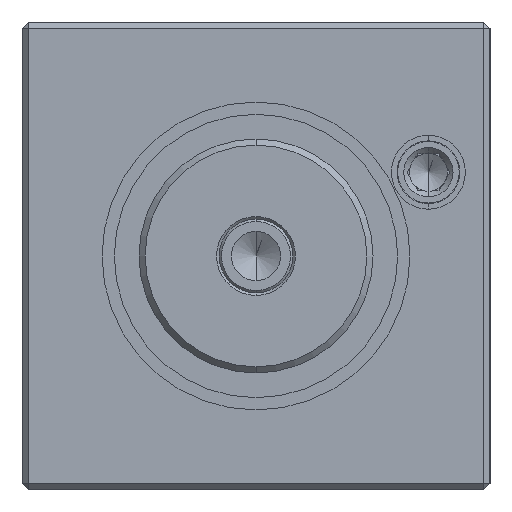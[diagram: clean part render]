
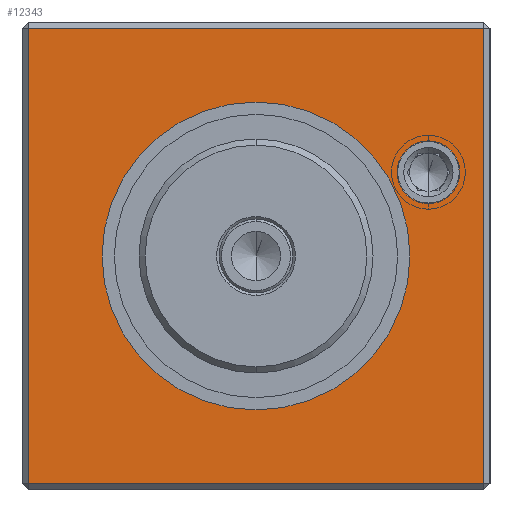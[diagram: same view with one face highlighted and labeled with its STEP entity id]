
A CAD part, left-side view. The second image highlights one B-rep face of the part: STEP entity #12343.
In plain terms, the highlighted planar face has unit normal (-1, 0, 0).
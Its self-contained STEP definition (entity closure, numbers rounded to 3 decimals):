
#9405 = VERTEX_POINT ( 'NONE', #24366 ) ;
#9406 = VERTEX_POINT ( 'NONE', #24367 ) ;
#9647 = EDGE_LOOP ( 'NONE', ( #11001, #11005 ) ) ;
#9648 = EDGE_LOOP ( 'NONE', ( #11002, #11004 ) ) ;
#9649 = EDGE_LOOP ( 'NONE', ( #10995, #10999, #10998, #11000 ) ) ;
#10797 = EDGE_CURVE ( 'NONE', #11420, #11421, #28496, .T. ) ;
#10798 = EDGE_CURVE ( 'NONE', #11419, #11420, #28499, .T. ) ;
#10799 = EDGE_CURVE ( 'NONE', #11421, #11422, #28502, .T. ) ;
#10800 = EDGE_CURVE ( 'NONE', #11422, #11419, #28505, .T. ) ;
#10801 = EDGE_CURVE ( 'NONE', #9406, #9405, #21098, .T. ) ;
#10802 = EDGE_CURVE ( 'NONE', #11342, #11341, #21099, .T. ) ;
#10949 = EDGE_CURVE ( 'NONE', #11341, #11342, #21155, .T. ) ;
#10995 = ORIENTED_EDGE ( 'NONE', *, *, #10798, .T. ) ;
#10998 = ORIENTED_EDGE ( 'NONE', *, *, #10799, .T. ) ;
#10999 = ORIENTED_EDGE ( 'NONE', *, *, #10797, .T. ) ;
#11000 = ORIENTED_EDGE ( 'NONE', *, *, #10800, .T. ) ;
#11001 = ORIENTED_EDGE ( 'NONE', *, *, #10802, .F. ) ;
#11002 = ORIENTED_EDGE ( 'NONE', *, *, #10801, .F. ) ;
#11004 = ORIENTED_EDGE ( 'NONE', *, *, #12201, .F. ) ;
#11005 = ORIENTED_EDGE ( 'NONE', *, *, #10949, .F. ) ;
#11341 = VERTEX_POINT ( 'NONE', #29944 ) ;
#11342 = VERTEX_POINT ( 'NONE', #29945 ) ;
#11419 = VERTEX_POINT ( 'NONE', #30022 ) ;
#11420 = VERTEX_POINT ( 'NONE', #30023 ) ;
#11421 = VERTEX_POINT ( 'NONE', #30024 ) ;
#11422 = VERTEX_POINT ( 'NONE', #30025 ) ;
#12201 = EDGE_CURVE ( 'NONE', #9405, #9406, #21184, .T. ) ;
#12343 = ADVANCED_FACE ( 'NONE', ( #29621, #29619, #29626 ), #31561, .F. ) ;
#21098 = CIRCLE ( 'NONE', #29124, 2.5 ) ;
#21099 = CIRCLE ( 'NONE', #29118, 12.5 ) ;
#21155 = CIRCLE ( 'NONE', #29260, 12.5 ) ;
#21184 = CIRCLE ( 'NONE', #29334, 2.5 ) ;
#24366 = CARTESIAN_POINT ( 'NONE',  ( 0., -14., 4.3 ) ) ;
#24367 = CARTESIAN_POINT ( 'NONE',  ( 0., -14., 9.3 ) ) ;
#28495 = CARTESIAN_POINT ( 'NONE',  ( 0., -14., 6.8 ) ) ;
#28496 = LINE ( 'NONE', #28497, #29125 ) ;
#28497 = CARTESIAN_POINT ( 'NONE',  ( 0., -19., -18.5 ) ) ;
#28498 = DIRECTION ( 'NONE',  ( 0., -1., 0. ) ) ;
#28499 = LINE ( 'NONE', #28500, #29126 ) ;
#28500 = CARTESIAN_POINT ( 'NONE',  ( 0., 18.5, 19. ) ) ;
#28501 = DIRECTION ( 'NONE',  ( 0., 0., -1. ) ) ;
#28502 = LINE ( 'NONE', #28503, #29127 ) ;
#28503 = CARTESIAN_POINT ( 'NONE',  ( 0., -18.5, 19. ) ) ;
#28504 = DIRECTION ( 'NONE',  ( 0., 0., 1. ) ) ;
#28505 = LINE ( 'NONE', #28506, #29128 ) ;
#28506 = CARTESIAN_POINT ( 'NONE',  ( 0., -19., 18.5 ) ) ;
#28507 = DIRECTION ( 'NONE',  ( 0., 1., 0. ) ) ;
#28508 = DIRECTION ( 'NONE',  ( -1., 0., 0. ) ) ;
#28509 = DIRECTION ( 'NONE',  ( 0., 0., 1. ) ) ;
#28510 = CARTESIAN_POINT ( 'NONE',  ( 0., 0., 0. ) ) ;
#28511 = DIRECTION ( 'NONE',  ( -1., 0., 0. ) ) ;
#28512 = DIRECTION ( 'NONE',  ( 0., -1., 0. ) ) ;
#29118 = AXIS2_PLACEMENT_3D ( 'NONE', #28510, #28511, #28512 ) ;
#29124 = AXIS2_PLACEMENT_3D ( 'NONE', #28495, #28508, #28509 ) ;
#29125 = VECTOR ( 'NONE', #28498, 1000. ) ;
#29126 = VECTOR ( 'NONE', #28501, 1000. ) ;
#29127 = VECTOR ( 'NONE', #28504, 1000. ) ;
#29128 = VECTOR ( 'NONE', #28507, 1000. ) ;
#29260 = AXIS2_PLACEMENT_3D ( 'NONE', #29892, #29893, #29894 ) ;
#29334 = AXIS2_PLACEMENT_3D ( 'NONE', #30618, #30619, #30620 ) ;
#29619 = FACE_BOUND ( 'NONE', #9648, .T. ) ;
#29621 = FACE_OUTER_BOUND ( 'NONE', #9649, .T. ) ;
#29626 = FACE_BOUND ( 'NONE', #9647, .T. ) ;
#29628 = AXIS2_PLACEMENT_3D ( 'NONE', #31562, #31563, #31564 ) ;
#29892 = CARTESIAN_POINT ( 'NONE',  ( 0., 0., 0. ) ) ;
#29893 = DIRECTION ( 'NONE',  ( -1., 0., 0. ) ) ;
#29894 = DIRECTION ( 'NONE',  ( 0., -1., 0. ) ) ;
#29944 = CARTESIAN_POINT ( 'NONE',  ( 0., 12.5, 0. ) ) ;
#29945 = CARTESIAN_POINT ( 'NONE',  ( 0., -12.5, 0. ) ) ;
#30022 = CARTESIAN_POINT ( 'NONE',  ( 0., 18.5, 18.5 ) ) ;
#30023 = CARTESIAN_POINT ( 'NONE',  ( 0., 18.5, -18.5 ) ) ;
#30024 = CARTESIAN_POINT ( 'NONE',  ( 0., -18.5, -18.5 ) ) ;
#30025 = CARTESIAN_POINT ( 'NONE',  ( 0., -18.5, 18.5 ) ) ;
#30618 = CARTESIAN_POINT ( 'NONE',  ( 0., -14., 6.8 ) ) ;
#30619 = DIRECTION ( 'NONE',  ( -1., 0., 0. ) ) ;
#30620 = DIRECTION ( 'NONE',  ( 0., 0., 1. ) ) ;
#31561 = PLANE ( 'NONE',  #29628 ) ;
#31562 = CARTESIAN_POINT ( 'NONE',  ( 0., -19., 19. ) ) ;
#31563 = DIRECTION ( 'NONE',  ( 1., 0., 0. ) ) ;
#31564 = DIRECTION ( 'NONE',  ( 0., 0., -1. ) ) ;
